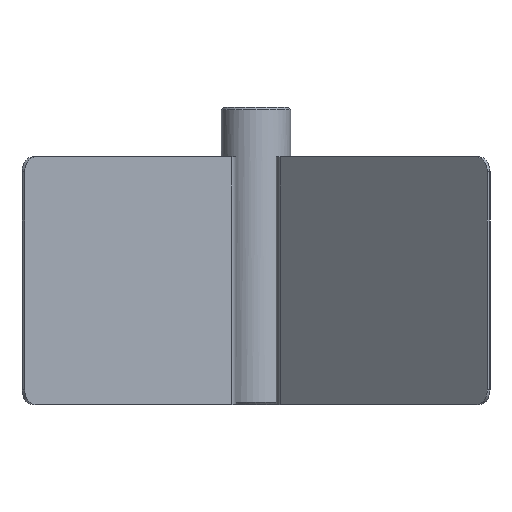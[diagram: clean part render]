
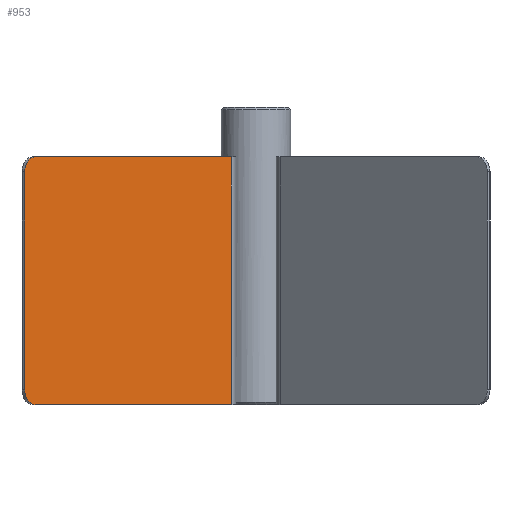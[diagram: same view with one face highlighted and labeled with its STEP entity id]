
A CAD part, left-side view. The second image highlights one B-rep face of the part: STEP entity #953.
In plain terms, the highlighted planar face has unit normal (-0.707, -0.707, 0).
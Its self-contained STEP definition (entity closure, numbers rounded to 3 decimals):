
#33=PLANE('',#1043);
#62=FACE_OUTER_BOUND('',#111,.T.);
#111=EDGE_LOOP('',(#656,#657,#658,#659,#660,#661));
#165=LINE('',#1466,#238);
#173=LINE('',#1490,#246);
#177=LINE('',#1509,#250);
#178=LINE('',#1510,#251);
#238=VECTOR('',#1166,10.);
#246=VECTOR('',#1190,10.);
#250=VECTOR('',#1214,10.);
#251=VECTOR('',#1215,10.);
#304=CIRCLE('',#1024,3.);
#312=CIRCLE('',#1038,3.);
#374=VERTEX_POINT('',#1456);
#375=VERTEX_POINT('',#1458);
#377=VERTEX_POINT('',#1464);
#384=VERTEX_POINT('',#1487);
#385=VERTEX_POINT('',#1489);
#390=VERTEX_POINT('',#1508);
#468=EDGE_CURVE('',#374,#375,#304,.T.);
#472=EDGE_CURVE('',#374,#377,#165,.T.);
#484=EDGE_CURVE('',#384,#385,#173,.T.);
#489=EDGE_CURVE('',#385,#377,#312,.T.);
#494=EDGE_CURVE('',#390,#384,#177,.T.);
#495=EDGE_CURVE('',#390,#375,#178,.T.);
#656=ORIENTED_EDGE('',*,*,#468,.F.);
#657=ORIENTED_EDGE('',*,*,#472,.T.);
#658=ORIENTED_EDGE('',*,*,#489,.F.);
#659=ORIENTED_EDGE('',*,*,#484,.F.);
#660=ORIENTED_EDGE('',*,*,#494,.F.);
#661=ORIENTED_EDGE('',*,*,#495,.T.);
#953=ADVANCED_FACE('',(#62),#33,.T.);
#1024=AXIS2_PLACEMENT_3D('',#1459,#1159,#1160);
#1038=AXIS2_PLACEMENT_3D('',#1498,#1200,#1201);
#1043=AXIS2_PLACEMENT_3D('',#1507,#1212,#1213);
#1159=DIRECTION('center_axis',(0.707,0.707,0.));
#1160=DIRECTION('ref_axis',(-0.5,0.5,0.707));
#1166=DIRECTION('',(0.,0.,-1.));
#1190=DIRECTION('',(-0.707,0.707,0.));
#1200=DIRECTION('center_axis',(0.707,0.707,0.));
#1201=DIRECTION('ref_axis',(-0.5,0.5,-0.707));
#1212=DIRECTION('center_axis',(-0.707,-0.707,0.));
#1213=DIRECTION('ref_axis',(-0.707,0.707,0.));
#1214=DIRECTION('',(0.,0.,-1.));
#1215=DIRECTION('',(-0.707,0.707,0.));
#1456=CARTESIAN_POINT('',(-50.912,46.669,2.));
#1458=CARTESIAN_POINT('',(-48.79,44.548,5.));
#1459=CARTESIAN_POINT('Origin',(-48.79,44.548,2.));
#1464=CARTESIAN_POINT('',(-50.912,46.669,-42.));
#1466=CARTESIAN_POINT('',(-50.912,46.669,5.));
#1487=CARTESIAN_POINT('',(-9.192,4.95,-45.));
#1489=CARTESIAN_POINT('',(-48.79,44.548,-45.));
#1490=CARTESIAN_POINT('',(-9.192,4.95,-45.));
#1498=CARTESIAN_POINT('Origin',(-48.79,44.548,-42.));
#1507=CARTESIAN_POINT('Origin',(-9.192,4.95,5.));
#1508=CARTESIAN_POINT('',(-9.192,4.95,5.));
#1509=CARTESIAN_POINT('',(-9.192,4.95,5.));
#1510=CARTESIAN_POINT('',(-9.192,4.95,5.));
